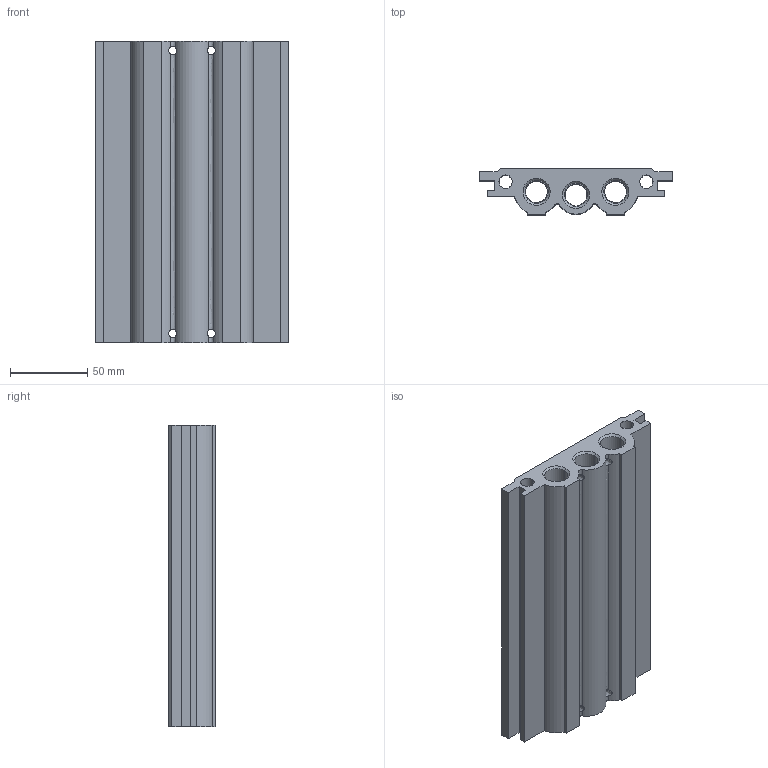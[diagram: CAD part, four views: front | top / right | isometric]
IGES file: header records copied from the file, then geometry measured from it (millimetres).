
Global section: file name: No Iges File Name specified; native system: AutoDesk Inventor R11.0; preprocessor: AutoDesk Inventor Iges Exporter R11.0; author: No Author specified; organization: No Organization specified; date: 20061201.115339; units: millimetre
Bounding box: 125 x 30 x 195 mm (x, y, z)
Volume: 401004.7 mm3; surface area: 113450.4 mm2
Topology: 1 solids, 1 shells, 258 faces, 678 edges, 448 vertices
Faces by surface type: bspline 197, revolution 28, plane 28, cylinder 5
